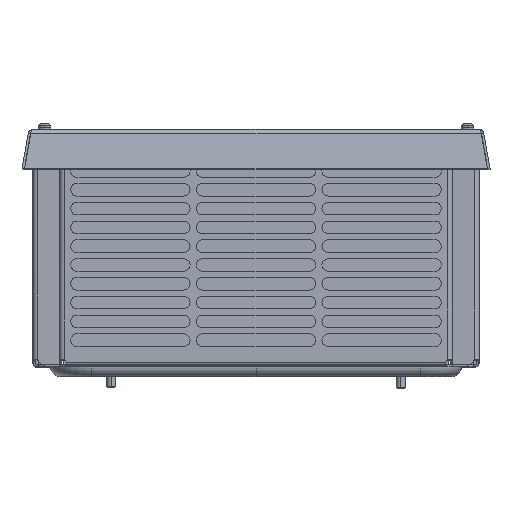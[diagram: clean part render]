
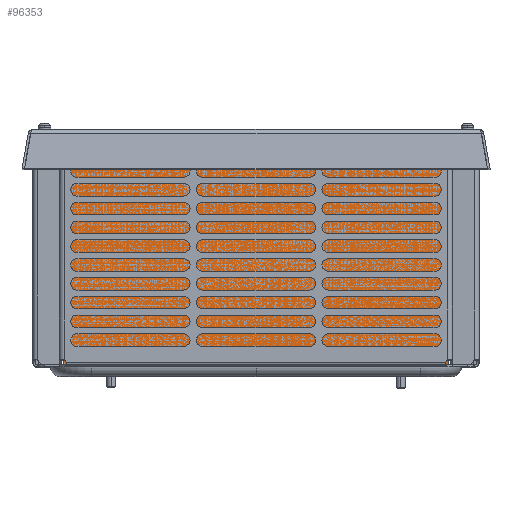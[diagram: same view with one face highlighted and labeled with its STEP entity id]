
A CAD part, top view. The second image highlights one B-rep face of the part: STEP entity #96353.
In plain terms, the highlighted planar face has unit normal (0, 0, 1).
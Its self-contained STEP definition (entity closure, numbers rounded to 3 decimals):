
#4885 = CARTESIAN_POINT ( 'NONE',  ( 0., 0., 15. ) ) ;
#24583 = DIRECTION ( 'NONE',  ( 1., 0., 0. ) ) ;
#44855 = LINE ( 'NONE', #98644, #135508 ) ;
#46955 = VECTOR ( 'NONE', #66225, 1000. ) ;
#47655 = CARTESIAN_POINT ( 'NONE',  ( 123., 73., 15. ) ) ;
#50040 = AXIS2_PLACEMENT_3D ( 'NONE', #4885, #59569, #61364 ) ;
#56969 = ORIENTED_EDGE ( 'NONE', *, *, #70449, .T. ) ;
#59569 = DIRECTION ( 'NONE',  ( 0., 0., -1. ) ) ;
#61364 = DIRECTION ( 'NONE',  ( -1., 0., 0. ) ) ;
#65582 = CARTESIAN_POINT ( 'NONE',  ( -123., -73., 15. ) ) ;
#66225 = DIRECTION ( 'NONE',  ( -1., 0., 0. ) ) ;
#69494 = VECTOR ( 'NONE', #24583, 1000. ) ;
#69871 = VERTEX_POINT ( 'NONE', #47655 ) ;
#70449 = EDGE_CURVE ( 'NONE', #151773, #82057, #136667, .T. ) ;
#72268 = CARTESIAN_POINT ( 'NONE',  ( -123., -73., 15. ) ) ;
#73083 = DIRECTION ( 'NONE',  ( 0., 1., 0. ) ) ;
#73161 = DIRECTION ( 'NONE',  ( 0., -1., 0. ) ) ;
#78447 = VECTOR ( 'NONE', #73161, 1000. ) ;
#81683 = EDGE_CURVE ( 'NONE', #69871, #82396, #106331, .T. ) ;
#82057 = VERTEX_POINT ( 'NONE', #104984 ) ;
#82396 = VERTEX_POINT ( 'NONE', #169568 ) ;
#88642 = LINE ( 'NONE', #72268, #78447 ) ;
#91763 = CARTESIAN_POINT ( 'NONE',  ( -123., 73., 15. ) ) ;
#94588 = ORIENTED_EDGE ( 'NONE', *, *, #158002, .T. ) ;
#96353 = ADVANCED_FACE ( 'NONE', ( #116957 ), #172556, .F. ) ;
#98644 = CARTESIAN_POINT ( 'NONE',  ( 123., -73., 15. ) ) ;
#101518 = ORIENTED_EDGE ( 'NONE', *, *, #121523, .T. ) ;
#104984 = CARTESIAN_POINT ( 'NONE',  ( 123., -73., 15. ) ) ;
#106331 = LINE ( 'NONE', #91763, #46955 ) ;
#116957 = FACE_OUTER_BOUND ( 'NONE', #149351, .T. ) ;
#121523 = EDGE_CURVE ( 'NONE', #82057, #69871, #44855, .T. ) ;
#129895 = CARTESIAN_POINT ( 'NONE',  ( -123., -73., 15. ) ) ;
#132309 = ORIENTED_EDGE ( 'NONE', *, *, #81683, .T. ) ;
#135508 = VECTOR ( 'NONE', #73083, 1000. ) ;
#136667 = LINE ( 'NONE', #65582, #69494 ) ;
#149351 = EDGE_LOOP ( 'NONE', ( #101518, #132309, #94588, #56969 ) ) ;
#151773 = VERTEX_POINT ( 'NONE', #129895 ) ;
#158002 = EDGE_CURVE ( 'NONE', #82396, #151773, #88642, .T. ) ;
#169568 = CARTESIAN_POINT ( 'NONE',  ( -123., 73., 15. ) ) ;
#172556 = PLANE ( 'NONE',  #50040 ) ;
